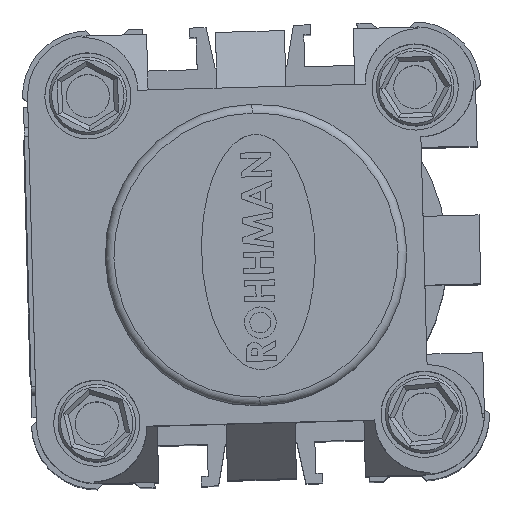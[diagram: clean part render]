
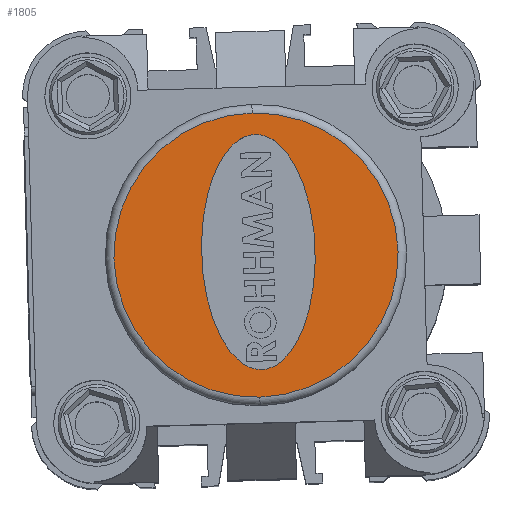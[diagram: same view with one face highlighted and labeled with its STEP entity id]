
A CAD part, top view. The second image highlights one B-rep face of the part: STEP entity #1805.
In plain terms, the highlighted planar face has unit normal (0, 0, 1) as drawn and (0, 0, -1) by its records, which use the part's own axes.
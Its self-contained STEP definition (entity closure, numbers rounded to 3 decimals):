
#460 = CARTESIAN_POINT ( 'NONE',  ( 12.017, 25.719, -4. ) ) ;
#1347 = CARTESIAN_POINT ( 'NONE',  ( 12.017, 38.913, -4. ) ) ;
#1805 = ADVANCED_FACE ( 'NONE', ( #5683, #18000 ), #26092, .T. ) ;
#2199 = EDGE_CURVE ( 'NONE', #18796, #9766, #5108, .T. ) ;
#3344 = DIRECTION ( 'NONE',  ( -1., 0., 0. ) ) ;
#5108 = CIRCLE ( 'NONE', #23641, 16.5 ) ;
#5683 = FACE_BOUND ( 'NONE', #28519, .T. ) ;
#6546 = CARTESIAN_POINT ( 'NONE',  ( 42.5, 26., -4. ) ) ;
#8816 = AXIS2_PLACEMENT_3D ( 'NONE', #13205, #15841, #3344 ) ;
#9766 = VERTEX_POINT ( 'NONE', #27980 ) ;
#10361 = EDGE_LOOP ( 'NONE', ( #14933, #27678 ) ) ;
#12358 = CARTESIAN_POINT ( 'NONE',  ( 39.297, 25.719, -4. ) ) ;
#13205 = CARTESIAN_POINT ( 'NONE',  ( 26., 26., -4. ) ) ;
#14205 = CARTESIAN_POINT ( 'NONE',  ( 26., 26., -4. ) ) ;
#14339 = CARTESIAN_POINT ( 'NONE',  ( 12.017, 25.719, -4. ) ) ;
#14878 = EDGE_CURVE ( 'NONE', #16022, #18345, #25650, .T. ) ;
#14933 = ORIENTED_EDGE ( 'NONE', *, *, #21283, .T. ) ;
#15841 = DIRECTION ( 'NONE',  ( 0., 0., -1. ) ) ;
#16022 = VERTEX_POINT ( 'NONE', #29571 ) ;
#16035 = CARTESIAN_POINT ( 'NONE',  ( 26., 26., -4. ) ) ;
#16392 = ORIENTED_EDGE ( 'NONE', *, *, #14878, .F. ) ;
#16680 = DIRECTION ( 'NONE',  ( -1., 0., 0. ) ) ;
#17414 = CIRCLE ( 'NONE', #26923, 16.5 ) ;
#18000 = FACE_OUTER_BOUND ( 'NONE', #10361, .T. ) ;
#18345 = VERTEX_POINT ( 'NONE', #460 ) ;
#18796 = VERTEX_POINT ( 'NONE', #6546 ) ;
#19024 = CARTESIAN_POINT ( 'NONE',  ( 39.297, 12.525, -4. ) ) ;
#19154 = DIRECTION ( 'NONE',  ( 0., 0., -1. ) ) ;
#20977 = DIRECTION ( 'NONE',  ( 0., 0., -1. ) ) ;
#21283 = EDGE_CURVE ( 'NONE', #9766, #18796, #17414, .T. ) ;
#21905 = CARTESIAN_POINT ( 'NONE',  ( 39.297, 25.719, -4. ) ) ;
#22615 = EDGE_CURVE ( 'NONE', #18345, #16022, #27984, .T. ) ;
#23641 = AXIS2_PLACEMENT_3D ( 'NONE', #14205, #19154, #16680 ) ;
#23904 = CARTESIAN_POINT ( 'NONE',  ( 39.297, 38.913, -4. ) ) ;
#24728 = CARTESIAN_POINT ( 'NONE',  ( 12.017, 25.719, -4. ) ) ;
#25650 =( BOUNDED_CURVE ( )  B_SPLINE_CURVE ( 3, ( #12358, #19024, #29115, #24728 ),
 .UNSPECIFIED., .F., .F. ) 
 B_SPLINE_CURVE_WITH_KNOTS ( ( 4, 4 ),
 ( 0., 3.142 ),
 .UNSPECIFIED. ) 
 CURVE ( )  GEOMETRIC_REPRESENTATION_ITEM ( )  RATIONAL_B_SPLINE_CURVE ( ( 1., 0.333, 0.333, 1. ) ) 
 REPRESENTATION_ITEM ( '' )  );
#25800 = DIRECTION ( 'NONE',  ( -1., 0., 0. ) ) ;
#26092 = PLANE ( 'NONE',  #8816 ) ;
#26923 = AXIS2_PLACEMENT_3D ( 'NONE', #16035, #20977, #25800 ) ;
#27678 = ORIENTED_EDGE ( 'NONE', *, *, #2199, .T. ) ;
#27980 = CARTESIAN_POINT ( 'NONE',  ( 9.5, 26., -4. ) ) ;
#27984 =( BOUNDED_CURVE ( )  B_SPLINE_CURVE ( 3, ( #14339, #1347, #23904, #21905 ),
 .UNSPECIFIED., .F., .F. ) 
 B_SPLINE_CURVE_WITH_KNOTS ( ( 4, 4 ),
 ( 3.142, 6.283 ),
 .UNSPECIFIED. ) 
 CURVE ( )  GEOMETRIC_REPRESENTATION_ITEM ( )  RATIONAL_B_SPLINE_CURVE ( ( 1., 0.333, 0.333, 1. ) ) 
 REPRESENTATION_ITEM ( '' )  );
#28519 = EDGE_LOOP ( 'NONE', ( #16392, #29084 ) ) ;
#29084 = ORIENTED_EDGE ( 'NONE', *, *, #22615, .F. ) ;
#29115 = CARTESIAN_POINT ( 'NONE',  ( 12.017, 12.525, -4. ) ) ;
#29571 = CARTESIAN_POINT ( 'NONE',  ( 39.297, 25.719, -4. ) ) ;
